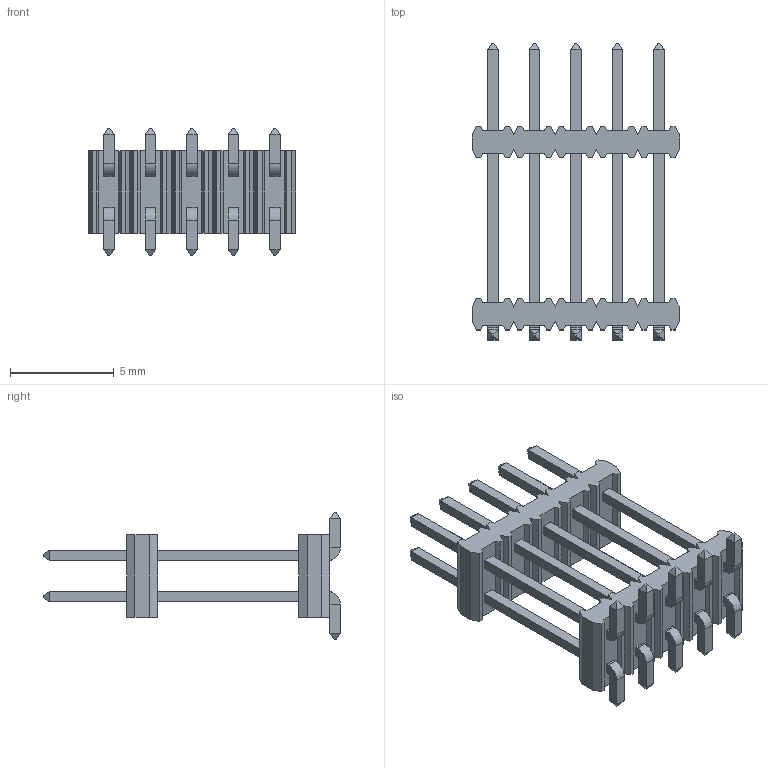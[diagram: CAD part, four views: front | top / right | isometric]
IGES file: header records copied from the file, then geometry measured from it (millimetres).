
Start section: SolidWorks IGES file using analytic representation for surfaces
Global section: file name: D:\RD\品管\3DS\未歸檔資料\2113-2X05G00D-4.0-14.3B\2113-2X05G00D-4.0-14.3B.IGS; native system: SolidWorks 2011; preprocessor: SolidWorks 2011; author: rd03; date: 150520.151439; units: millimetre
Bounding box: 10 x 14.3 x 6.15 mm (x, y, z)
Surface area: 627.2 mm2 (no closed solid volume)
Topology: 0 solids, 0 shells, 448 faces, 2344 edges, 2344 vertices
Faces by surface type: bspline 428, revolution 20
